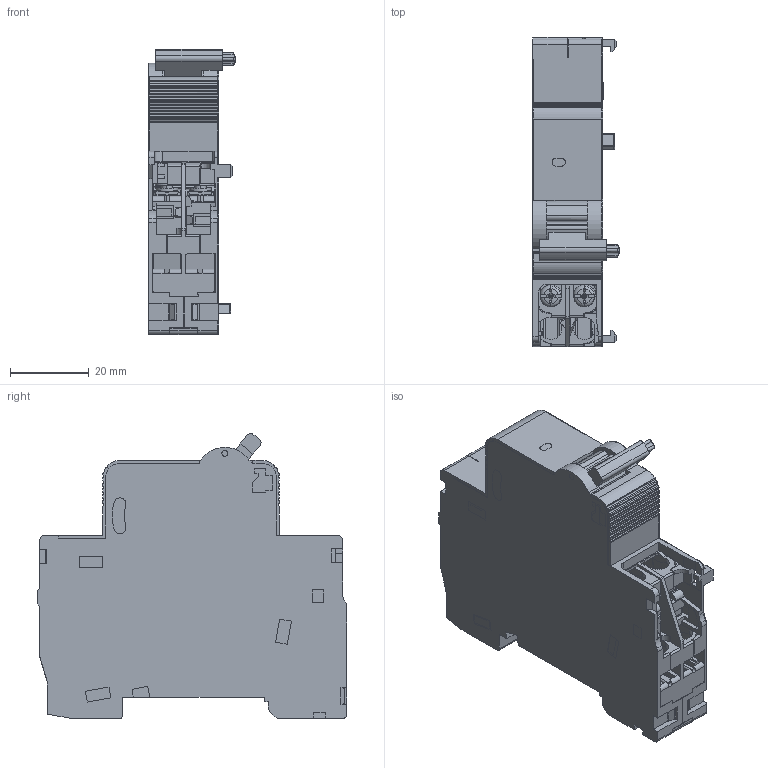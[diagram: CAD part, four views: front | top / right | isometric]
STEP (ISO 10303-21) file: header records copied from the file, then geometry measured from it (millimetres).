
FILE_DESCRIPTION (( 'STEP AP214' ), '1' );
FILE_NAME ('TGB1N-MX.STEP', '2025-12-15T12:40:16', ( '' ), ( '' ), 'SwSTEP 2.0', 'SolidWorks 2024', '' );
FILE_SCHEMA (( 'AUTOMOTIVE_DESIGN' ));
Length unit declared in the file: millimetre
Products named in the file (5): TGB1N-MX; _1_-__SW00010001_3.stp; _1_-__SW00010001_1.stp; _1_-__SW00010001_2.stp; TGB1N-MX.stp
Assembly tree (4 placements, depth 3):
  TGB1N-MX
    TGB1N-MX.stp
      _1_-__SW00010001_1.stp
      _1_-__SW00010001_2.stp
      _1_-__SW00010001_3.stp
Bounding box: 22 x 78.7 x 72.48 mm (x, y, z)
Volume: 21449.9 mm3; surface area: 39055.5 mm2
Topology: 3 solids, 3 shells, 2309 faces, 6673 edges, 4330 vertices
Faces by surface type: plane 1504, cylinder 659, torus 49, cone 43, sphere 38, bspline 16
Entity records: 79109 total; most frequent: CARTESIAN_POINT 17786, ORIENTED_EDGE 13270, DIRECTION 12333, EDGE_CURVE 6635, VECTOR 4895, LINE 4895, VERTEX_POINT 4330, AXIS2_PLACEMENT_3D 3719
